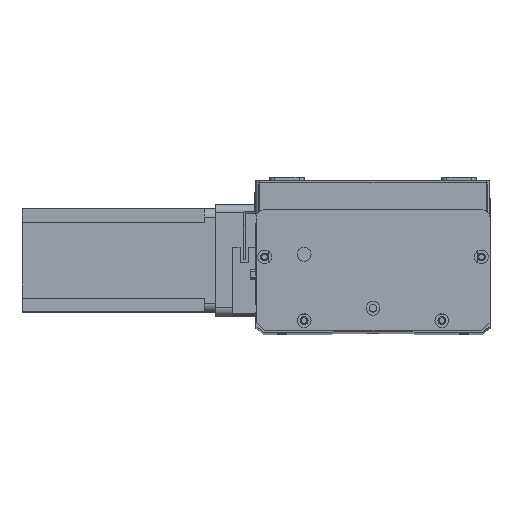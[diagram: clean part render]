
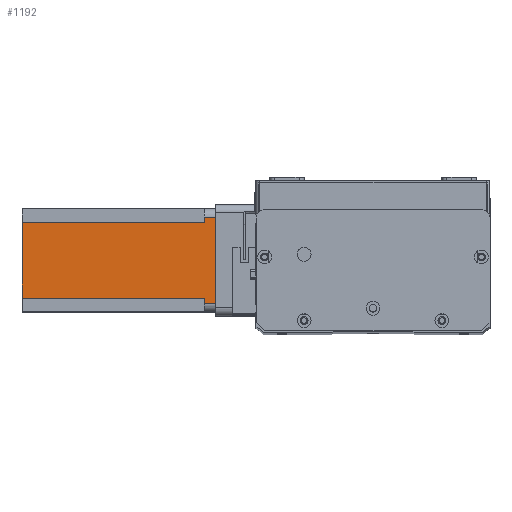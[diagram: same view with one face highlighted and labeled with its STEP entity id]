
A CAD part, top view. The second image highlights one B-rep face of the part: STEP entity #1192.
In plain terms, the highlighted planar face has unit normal (0, 0, 1) as drawn and (0, -1, 0) by its records, which use the part's own axes.
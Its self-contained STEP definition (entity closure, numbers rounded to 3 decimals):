
#702 = VECTOR ( 'NONE', #19160, 1000. ) ;
#1080 = CARTESIAN_POINT ( 'NONE',  ( 8., 0., -112.5 ) ) ;
#1192 = ADVANCED_FACE ( 'NONE', ( #13332 ), #19397, .T. ) ;
#1269 = CARTESIAN_POINT ( 'NONE',  ( 5., 0., 0. ) ) ;
#1933 = VERTEX_POINT ( 'NONE', #7566 ) ;
#2349 = VERTEX_POINT ( 'NONE', #25211 ) ;
#2604 = ORIENTED_EDGE ( 'NONE', *, *, #18370, .T. ) ;
#2816 = VERTEX_POINT ( 'NONE', #1080 ) ;
#3825 = LINE ( 'NONE', #19269, #24106 ) ;
#4162 = VERTEX_POINT ( 'NONE', #19673 ) ;
#4209 = CARTESIAN_POINT ( 'NONE',  ( 55., 0., -6.5 ) ) ;
#4391 = CARTESIAN_POINT ( 'NONE',  ( 52., 0., -6.5 ) ) ;
#4658 = CARTESIAN_POINT ( 'NONE',  ( 52., 0., -112.5 ) ) ;
#4805 = DIRECTION ( 'NONE',  ( 0., -1., 0. ) ) ;
#4813 = EDGE_CURVE ( 'NONE', #10437, #2349, #19497, .T. ) ;
#4842 = ORIENTED_EDGE ( 'NONE', *, *, #16147, .F. ) ;
#5406 = CARTESIAN_POINT ( 'NONE',  ( 0., 0., -112.5 ) ) ;
#6366 = DIRECTION ( 'NONE',  ( -1., 0., 0. ) ) ;
#7261 = EDGE_CURVE ( 'NONE', #2816, #2349, #11028, .T. ) ;
#7471 = DIRECTION ( 'NONE',  ( 0., 0., -1. ) ) ;
#7566 = CARTESIAN_POINT ( 'NONE',  ( 8., 0., -6.5 ) ) ;
#8100 = EDGE_CURVE ( 'NONE', #1933, #4162, #19468, .T. ) ;
#8171 = CARTESIAN_POINT ( 'NONE',  ( 8., 0., -112.5 ) ) ;
#9025 = VECTOR ( 'NONE', #14406, 1000. ) ;
#9395 = ORIENTED_EDGE ( 'NONE', *, *, #4813, .F. ) ;
#9906 = EDGE_CURVE ( 'NONE', #10437, #14104, #11961, .T. ) ;
#9914 = LINE ( 'NONE', #8171, #19776 ) ;
#10437 = VERTEX_POINT ( 'NONE', #4391 ) ;
#11028 = LINE ( 'NONE', #20493, #16250 ) ;
#11142 = LINE ( 'NONE', #21047, #702 ) ;
#11355 = ORIENTED_EDGE ( 'NONE', *, *, #7261, .T. ) ;
#11961 = LINE ( 'NONE', #15455, #19986 ) ;
#12117 = ORIENTED_EDGE ( 'NONE', *, *, #17716, .F. ) ;
#12594 = DIRECTION ( 'NONE',  ( 0., 0., -1. ) ) ;
#13332 = FACE_OUTER_BOUND ( 'NONE', #24140, .T. ) ;
#13464 = DIRECTION ( 'NONE',  ( 1., 0., 0. ) ) ;
#14104 = VERTEX_POINT ( 'NONE', #4209 ) ;
#14196 = VECTOR ( 'NONE', #6366, 1000. ) ;
#14406 = DIRECTION ( 'NONE',  ( 0., 0., -1. ) ) ;
#15279 = DIRECTION ( 'NONE',  ( 1., 0., 0. ) ) ;
#15455 = CARTESIAN_POINT ( 'NONE',  ( 52., 0., -6.5 ) ) ;
#15710 = VERTEX_POINT ( 'NONE', #17061 ) ;
#15946 = DIRECTION ( 'NONE',  ( 0., 0., 1. ) ) ;
#16147 = EDGE_CURVE ( 'NONE', #2816, #1933, #9914, .T. ) ;
#16250 = VECTOR ( 'NONE', #22454, 1000. ) ;
#16475 = VERTEX_POINT ( 'NONE', #1269 ) ;
#16930 = AXIS2_PLACEMENT_3D ( 'NONE', #5406, #4805, #7471 ) ;
#17061 = CARTESIAN_POINT ( 'NONE',  ( 55., 0., 0. ) ) ;
#17716 = EDGE_CURVE ( 'NONE', #16475, #15710, #3825, .T. ) ;
#18370 = EDGE_CURVE ( 'NONE', #14104, #15710, #11142, .T. ) ;
#18524 = VECTOR ( 'NONE', #12594, 1000. ) ;
#18930 = EDGE_CURVE ( 'NONE', #16475, #4162, #19134, .T. ) ;
#18986 = ORIENTED_EDGE ( 'NONE', *, *, #8100, .F. ) ;
#19134 = LINE ( 'NONE', #24385, #18524 ) ;
#19160 = DIRECTION ( 'NONE',  ( 0., 0., 1. ) ) ;
#19269 = CARTESIAN_POINT ( 'NONE',  ( 0., 0., 0. ) ) ;
#19397 = PLANE ( 'NONE',  #16930 ) ;
#19468 = LINE ( 'NONE', #21997, #14196 ) ;
#19497 = LINE ( 'NONE', #4658, #9025 ) ;
#19673 = CARTESIAN_POINT ( 'NONE',  ( 5., 0., -6.5 ) ) ;
#19776 = VECTOR ( 'NONE', #15946, 1000. ) ;
#19986 = VECTOR ( 'NONE', #13464, 1000. ) ;
#20493 = CARTESIAN_POINT ( 'NONE',  ( 0., 0., -112.5 ) ) ;
#21047 = CARTESIAN_POINT ( 'NONE',  ( 55., 0., -112.5 ) ) ;
#21997 = CARTESIAN_POINT ( 'NONE',  ( 8., 0., -6.5 ) ) ;
#22454 = DIRECTION ( 'NONE',  ( 1., 0., 0. ) ) ;
#24106 = VECTOR ( 'NONE', #15279, 1000. ) ;
#24140 = EDGE_LOOP ( 'NONE', ( #24556, #2604, #12117, #24762, #18986, #4842, #11355, #9395 ) ) ;
#24385 = CARTESIAN_POINT ( 'NONE',  ( 5., 0., -112.5 ) ) ;
#24556 = ORIENTED_EDGE ( 'NONE', *, *, #9906, .T. ) ;
#24762 = ORIENTED_EDGE ( 'NONE', *, *, #18930, .T. ) ;
#25211 = CARTESIAN_POINT ( 'NONE',  ( 52., 0., -112.5 ) ) ;
